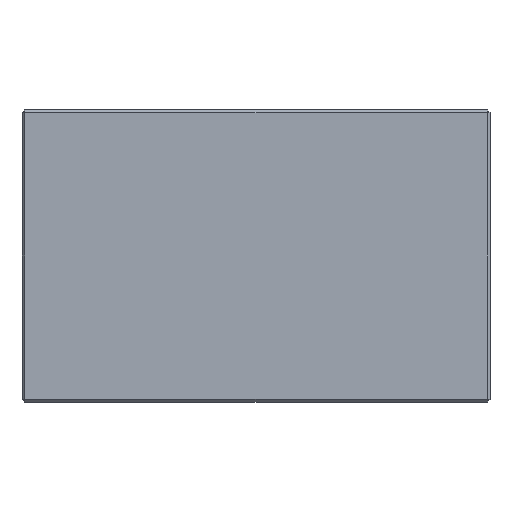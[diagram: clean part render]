
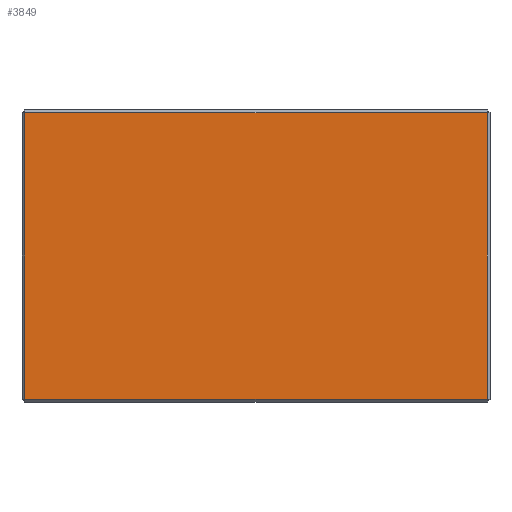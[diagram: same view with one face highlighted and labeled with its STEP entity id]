
A CAD part, front view. The second image highlights one B-rep face of the part: STEP entity #3849.
In plain terms, the highlighted planar face has unit normal (0, -1, 0).
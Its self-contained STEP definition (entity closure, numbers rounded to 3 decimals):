
#165 = ORIENTED_EDGE ( 'NONE', *, *, #11656, .T. ) ;
#967 = CARTESIAN_POINT ( 'NONE',  ( 0.5, -40., -24.5 ) ) ;
#3614 = CARTESIAN_POINT ( 'NONE',  ( 79.5, -40., -24.5 ) ) ;
#3849 = ADVANCED_FACE ( 'NONE', ( #7183 ), #5340, .F. ) ;
#4260 = EDGE_LOOP ( 'NONE', ( #165, #5884, #8541, #6870 ) ) ;
#4966 = VECTOR ( 'NONE', #7059, 1000. ) ;
#5013 = LINE ( 'NONE', #6935, #4966 ) ;
#5323 = DIRECTION ( 'NONE',  ( 0., 0., 1. ) ) ;
#5324 = VECTOR ( 'NONE', #9174, 1000. ) ;
#5338 = DIRECTION ( 'NONE',  ( 0., 1., 0. ) ) ;
#5340 = PLANE ( 'NONE',  #5843 ) ;
#5348 = VECTOR ( 'NONE', #9230, 1000. ) ;
#5428 = LINE ( 'NONE', #9188, #5324 ) ;
#5468 = LINE ( 'NONE', #9489, #5496 ) ;
#5496 = VECTOR ( 'NONE', #9531, 1000. ) ;
#5594 = CARTESIAN_POINT ( 'NONE',  ( 80., -40., 25. ) ) ;
#5790 = LINE ( 'NONE', #9393, #5348 ) ;
#5843 = AXIS2_PLACEMENT_3D ( 'NONE', #5594, #5338, #5323 ) ;
#5884 = ORIENTED_EDGE ( 'NONE', *, *, #11721, .T. ) ;
#6035 = VERTEX_POINT ( 'NONE', #3614 ) ;
#6182 = CARTESIAN_POINT ( 'NONE',  ( 0.5, -40., 24.5 ) ) ;
#6870 = ORIENTED_EDGE ( 'NONE', *, *, #11945, .T. ) ;
#6935 = CARTESIAN_POINT ( 'NONE',  ( 80., -40., -24.5 ) ) ;
#7059 = DIRECTION ( 'NONE',  ( 1., 0., 0. ) ) ;
#7113 = VERTEX_POINT ( 'NONE', #8636 ) ;
#7183 = FACE_OUTER_BOUND ( 'NONE', #4260, .T. ) ;
#7996 = VERTEX_POINT ( 'NONE', #967 ) ;
#8541 = ORIENTED_EDGE ( 'NONE', *, *, #11733, .T. ) ;
#8636 = CARTESIAN_POINT ( 'NONE',  ( 79.5, -40., 24.5 ) ) ;
#9174 = DIRECTION ( 'NONE',  ( 0., 0., -1. ) ) ;
#9188 = CARTESIAN_POINT ( 'NONE',  ( 0.5, -40., -25. ) ) ;
#9230 = DIRECTION ( 'NONE',  ( -1., 0., 0. ) ) ;
#9393 = CARTESIAN_POINT ( 'NONE',  ( 80., -40., 24.5 ) ) ;
#9489 = CARTESIAN_POINT ( 'NONE',  ( 79.5, -40., 25. ) ) ;
#9531 = DIRECTION ( 'NONE',  ( 0., 0., 1. ) ) ;
#11190 = VERTEX_POINT ( 'NONE', #6182 ) ;
#11656 = EDGE_CURVE ( 'NONE', #6035, #7113, #5468, .T. ) ;
#11721 = EDGE_CURVE ( 'NONE', #7113, #11190, #5790, .T. ) ;
#11733 = EDGE_CURVE ( 'NONE', #11190, #7996, #5428, .T. ) ;
#11945 = EDGE_CURVE ( 'NONE', #7996, #6035, #5013, .T. ) ;
